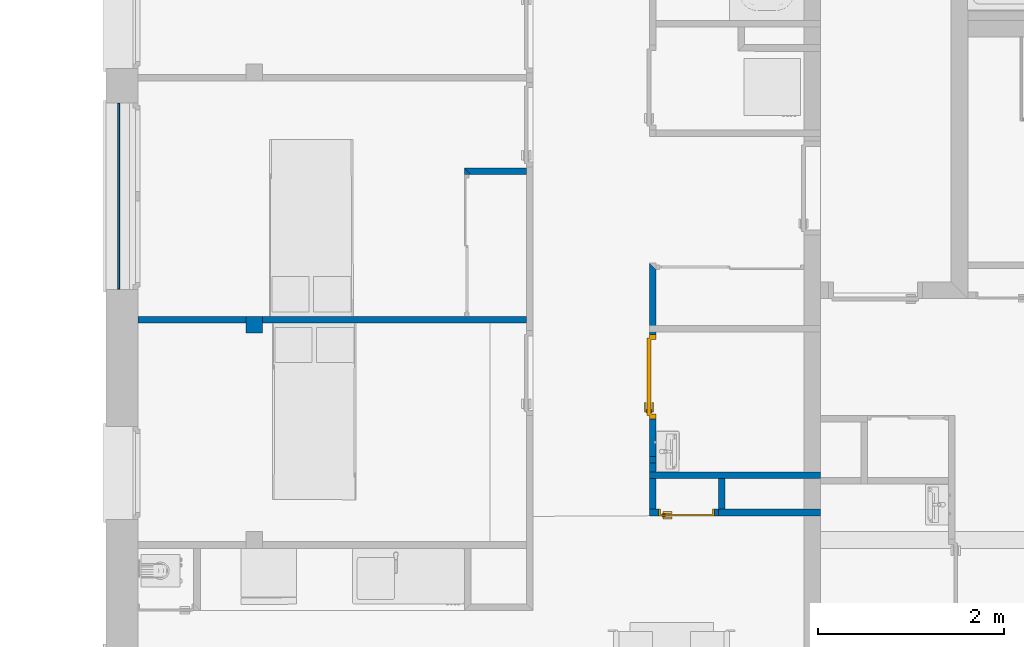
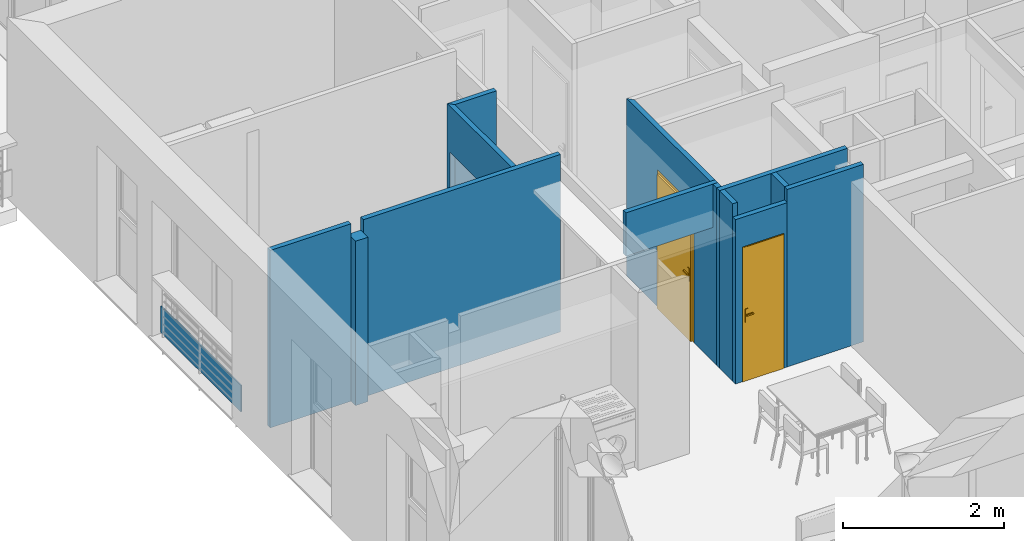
# One storey, part 9 of 164: 12 walls, 2 doors, 4 openings.
"""IFC2X3 building model written with IfcOpenShell, lengths in millimetres."""

from ifc_helpers import new_model, entity, si_unit, converted_unit, derived_unit, money_unit, direction, frame, origin_with_axes, origin_2d_with_axis, place, context, subcontext, project, spatial, polyline, rectangle, outline, extrude, faceted_brep, source, transform, mapped, material, layer, layer_set, layer_usage, type_object, element, fill, save


model = new_model("IFC2X3")

# Units and contexts
model_context = context("Model", 3, precision=0.01, world=origin_with_axes(), true_north=direction((0.0, 1.0)))
body_context = subcontext(model_context, "Body", "Model", "MODEL_VIEW")
ifc_project = project(units=[si_unit("LENGTHUNIT", "METRE", prefix="MILLI"), si_unit("AREAUNIT", "SQUARE_METRE"), si_unit("VOLUMEUNIT", "CUBIC_METRE"), converted_unit("PLANEANGLEUNIT", "DEGREE", entity("IfcPlaneAngleMeasure", 0.0174532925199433), si_unit("PLANEANGLEUNIT", "RADIAN"), dimensions=[0, 0, 0, 0, 0, 0, 0]), money_unit("USD"), converted_unit("TIMEUNIT", "Year", entity("IfcTimeMeasure", 31557600.0), si_unit("TIMEUNIT", "SECOND"), dimensions=[0, 0, 1, 0, 0, 0, 0]), si_unit("MASSUNIT", "GRAM", prefix="KILO"), si_unit("THERMODYNAMICTEMPERATUREUNIT", "DEGREE_CELSIUS"), si_unit("LUMINOUSINTENSITYUNIT", "LUMEN"), si_unit("ENERGYUNIT", "JOULE", prefix="MEGA"), derived_unit("THERMALCONDUCTANCEUNIT", [(si_unit("POWERUNIT", "WATT"), 1), (si_unit("LENGTHUNIT", "METRE"), -1), (si_unit("THERMODYNAMICTEMPERATUREUNIT", "KELVIN"), -1)]), derived_unit("SPECIFICHEATCAPACITYUNIT", [(si_unit("ENERGYUNIT", "JOULE"), 1), (si_unit("MASSUNIT", "GRAM", prefix="KILO"), -1), (si_unit("THERMODYNAMICTEMPERATUREUNIT", "KELVIN"), -1)]), derived_unit("MASSDENSITYUNIT", [(si_unit("MASSUNIT", "GRAM", prefix="KILO"), 1), (si_unit("VOLUMEUNIT", "CUBIC_METRE"), -1)])], contexts=[model_context])

# Site, building, storey
site_placement = place(None, origin_with_axes())
site = spatial("IfcSite", under=ifc_project, at=site_placement, Name="Site", CompositionType="ELEMENT")
building_placement = place(site_placement, origin_with_axes())
building = spatial("IfcBuilding", under=site, at=building_placement, Name="Bâtiment", CompositionType="ELEMENT")
storey_placement = place(building_placement, frame((0.0, 0.0, 5750.0), z_axis=(0.0, 0.0, 1.0), x_axis=(1.0, 0.0, 0.0)))
storey = spatial("IfcBuildingStorey", under=building, at=storey_placement, Name="Etage1", CompositionType="ELEMENT", Elevation=5750.0)

# Wall
ifc_material_1 = material(Name="Hachure solide 268963992")
ifc_layer_1 = layer(ifc_material_1, 70.0, ventilated="UNKNOWN")
ifc_layer_set_1 = layer_set([ifc_layer_1], Name="Cloison 70 0826278243")
ifc_layer_usage_1 = layer_usage(ifc_layer_set_1, "AXIS2", "NEGATIVE", 70.0)
wall_type_1 = type_object("IfcWallType", Name="Cloison 70 0826278243 70", PredefinedType="NOTDEFINED")
wall_1_placement = place(storey_placement, frame((2221152.351167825, -648325.5587458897, 0.0), z_axis=(0.0, 0.0, 1.0), x_axis=(-1.0, 0.0, 0.0)))
element("IfcWallStandardCase", 1, at=wall_1_placement, inside=storey, type_object=wall_type_1, material=ifc_layer_usage_1, Name="Mur-149", context=body_context, shape_type="SweptSolid", body=[
    extrude(outline(polyline([(1.541729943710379e-05, 0.0), (669.9999999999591, 0.0), (600.0000075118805, 69.99999999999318), (1.571481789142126e-05, 69.99999999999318), (1.541729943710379e-05, 0.0)])), origin_with_axes(), (0.0, 0.0, 1.0), 2700.0),
])

# Wall, opening
ifc_layer_usage_2 = layer_usage(ifc_layer_set_1, "AXIS2", "NEGATIVE", 70.0)
wall_2_placement = place(storey_placement, frame((2220482.351167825, -648325.5587458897, 0.0), z_axis=(0.0, 0.0, 1.0), x_axis=(-1.073144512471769e-07, -0.9999999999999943, 0.0)))
wall_2 = element("IfcWallStandardCase", 2, at=wall_2_placement, inside=storey, type_object=wall_type_1, material=ifc_layer_usage_2, Name="Mur-149", context=body_context, shape_type="SweptSolid", body=[
    extrude(outline(polyline([(0.0, 0.0), (1595.2278793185, 0.0), (1595.227871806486, 70.00000000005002), (69.99999248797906, 70.00000000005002), (0.0, 0.0)])), origin_with_axes(), (0.0, 0.0, 1.0), 2700.0),
])
opening_1_placement = place(wall_2_placement, frame((832.6139321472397, 2.273736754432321e-10, 0.0), z_axis=(0.0, 0.0, 1.0), x_axis=(1.0, 0.0, 0.0)))
element("IfcOpeningElement", 3, at=opening_1_placement, cuts=wall_2, Name="Por-321", context=body_context, shape_type="SweptSolid", body=[
    extrude(rectangle(XDim=1525.227879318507, YDim=2000.0, at=origin_2d_with_axis()), frame((0.0, 0.0, 1000.0), z_axis=(0.0, 1.0, 0.0), x_axis=(1.0, 0.0, 0.0)), (0.0, 0.0, -1.0), 70.0),
    extrude(rectangle(XDim=1525.227879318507, YDim=2000.0, at=origin_2d_with_axis()), frame((0.0, 0.0, 1000.0), z_axis=(0.0, -1.0, 0.0), x_axis=(1.0, 0.0, 0.0)), (0.0, 0.0, -1.0), 70.0),
])

# Wall
ifc_layer_usage_3 = layer_usage(ifc_layer_set_1, "AXIS2", "NEGATIVE", 70.0)
wall_3_placement = place(storey_placement, frame((2221152.351167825, -649920.7866252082, 0.0), z_axis=(0.0, 0.0, 1.0), x_axis=(-1.0, 0.0, 0.0)))
element("IfcWallStandardCase", 4, at=wall_3_placement, inside=storey, type_object=wall_type_1, material=ifc_layer_usage_3, Name="Mur-149", context=body_context, shape_type="SweptSolid", body=[
    extrude(outline(polyline([(2.219758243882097e-05, 0.0), (2838.067937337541, 0.0), (2838.067937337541, 69.99999999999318), (2.249510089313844e-05, 69.99999999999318), (2.219758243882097e-05, 0.0)])), origin_with_axes(), (0.0, 0.0, 1.0), 2700.0),
])

# Wall, opening, door
ifc_layer_usage_4 = layer_usage(ifc_layer_set_1, "AXIS2", "NEGATIVE", 70.0)
wall_4_placement = place(storey_placement, frame((2222472.351121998, -649348.3834312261, 0.0), z_axis=(0.0, 0.0, 1.0), x_axis=(-0.0001713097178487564, -0.9999999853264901, 0.0)))
wall_4 = element("IfcWallStandardCase", 5, at=wall_4_placement, inside=storey, type_object=wall_type_1, material=ifc_layer_usage_4, Name="Mur-149", context=body_context, shape_type="SweptSolid", body=[
    extrude(outline(polyline([(0.0, 0.0), (2645.000038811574, -1.13686837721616e-10), (2644.98804713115, 69.99999999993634), (69.98800934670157, 69.99999999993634), (0.0, 0.0)])), origin_with_axes(), (0.0, 0.0, 1.0), 2700.0),
])
opening_2_placement = place(wall_4_placement, frame((1220.399752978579, -1.13686837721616e-10, 0.0), z_axis=(0.0, 0.0, 1.0), x_axis=(1.0, 0.0, 0.0)))
opening_2 = element("IfcOpeningElement", 6, at=opening_2_placement, cuts=wall_4, Name="Por-283", context=body_context, shape_type="SweptSolid", body=[
    extrude(rectangle(XDim=910.0, YDim=2080.0, at=origin_2d_with_axis()), frame((0.0, 70.00000000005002, 1040.0), z_axis=(0.0, -1.0, 0.0), x_axis=(-1.0, 0.0, 0.0)), (0.0, 0.0, 1.0), 140.0),
])
door_style = type_object("IfcDoorStyle", Name="Porte_1v", ConstructionType="NOTDEFINED", OperationType="NOTDEFINED", ParameterTakesPrecedence=False, Sizeable=False)
shared_shape_1 = source(origin_with_axes(), body_context, "Body", "Brep", [
    faceted_brep([(454.9999999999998, 0.0, 0.0), (414.9999999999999, 0.0, 0.0), (414.9999999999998, 0.0, 2040.0), (-414.9999999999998, 0.0, 2040.0), (-414.9999999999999, 0.0, 0.0), (-454.9999999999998, 0.0, 0.0), (-454.9999999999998, 0.0, 2080.0), (454.9999999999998, 0.0, 2080.0), (454.9999999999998, -69.99999999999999, 0.0), (399.9999999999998, -69.99999999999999, 0.0), (399.9999999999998, -15.0, 0.0), (414.9999999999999, -15.0, 0.0), (414.9999999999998, -15.0, 2040.0), (-414.9999999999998, -15.0, 2040.0), (-414.9999999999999, -15.0, 0.0), (-399.9999999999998, -15.0, 0.0), (-399.9999999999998, -69.99999999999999, 0.0), (-454.9999999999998, -69.99999999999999, 0.0), (-454.9999999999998, -69.99999999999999, 2080.0), (454.9999999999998, -69.99999999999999, 2080.0), (-399.9999999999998, -69.99999999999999, 2025.0), (399.9999999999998, -69.99999999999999, 2025.0), (399.9999999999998, -15.0, 2025.0), (-399.9999999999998, -15.0, 2025.0)], [[[0, 1, 2, 3, 4, 5, 6, 7]], [[0, 8, 9, 10, 11, 1]], [[1, 11, 12, 2]], [[2, 12, 13, 3]], [[3, 13, 14, 4]], [[5, 4, 14, 15, 16, 17]], [[18, 6, 5, 17]], [[19, 7, 6, 18]], [[8, 0, 7, 19]], [[9, 8, 19, 18, 17, 16, 20, 21]], [[10, 9, 21, 22]], [[11, 10, 22, 23, 15, 14, 13, 12]], [[23, 20, 16, 15]], [[22, 21, 20, 23]]]),
    faceted_brep([(-349.9999999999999, -15.0, 900.0), (-389.9999999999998, -15.0, 900.0), (-389.9999999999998, -15.0, 1100.0), (-349.9999999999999, -15.0, 1100.0), (-349.9999999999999, -24.99999999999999, 900.0), (-389.9999999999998, -24.99999999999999, 900.0), (-389.9999999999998, -24.99999999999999, 1100.0), (-349.9999999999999, -24.99999999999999, 1100.0)], [[[0, 1, 2, 3]], [[1, 0, 4, 5]], [[2, 1, 5, 6]], [[3, 2, 6, 7]], [[0, 3, 7, 4]], [[5, 4, 7, 6]]]),
    faceted_brep([(-279.9999999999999, -24.99999999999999, 1000.0), (-379.9999999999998, -24.99999999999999, 1000.0), (-379.9999999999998, -24.99999999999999, 1020.0), (-279.9999999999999, -24.99999999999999, 1020.0), (-279.9999999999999, -44.99999999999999, 1000.0), (-379.9999999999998, -44.99999999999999, 1000.0), (-379.9999999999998, -44.99999999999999, 1020.0), (-279.9999999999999, -44.99999999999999, 1020.0)], [[[0, 1, 2, 3]], [[1, 0, 4, 5]], [[2, 1, 5, 6]], [[3, 2, 6, 7]], [[0, 3, 7, 4]], [[5, 4, 7, 6]]]),
    faceted_brep([(-349.9999999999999, 34.99999999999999, 900.0), (-389.9999999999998, 34.99999999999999, 900.0), (-389.9999999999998, 34.99999999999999, 1100.0), (-349.9999999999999, 34.99999999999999, 1100.0), (-349.9999999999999, 24.99999999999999, 900.0), (-389.9999999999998, 24.99999999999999, 900.0), (-389.9999999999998, 24.99999999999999, 1100.0), (-349.9999999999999, 24.99999999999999, 1100.0)], [[[0, 1, 2, 3]], [[1, 0, 4, 5]], [[2, 1, 5, 6]], [[3, 2, 6, 7]], [[0, 3, 7, 4]], [[5, 4, 7, 6]]]),
    faceted_brep([(-279.9999999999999, 54.99999999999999, 1000.0), (-379.9999999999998, 54.99999999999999, 1000.0), (-379.9999999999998, 54.99999999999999, 1020.0), (-279.9999999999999, 54.99999999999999, 1020.0), (-279.9999999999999, 34.99999999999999, 1000.0), (-379.9999999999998, 34.99999999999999, 1000.0), (-379.9999999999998, 34.99999999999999, 1020.0), (-279.9999999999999, 34.99999999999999, 1020.0)], [[[0, 1, 2, 3]], [[1, 0, 4, 5]], [[2, 1, 5, 6]], [[3, 2, 6, 7]], [[0, 3, 7, 4]], [[5, 4, 7, 6]]]),
    faceted_brep([(-414.9999999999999, 24.99999999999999, 0.0), (414.9999999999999, 24.99999999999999, 0.0), (414.9999999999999, -15.0, 0.0), (-414.9999999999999, -15.0, 0.0), (-414.9999999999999, 24.99999999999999, 2040.0), (414.9999999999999, 24.99999999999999, 2040.0), (414.9999999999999, -15.0, 2040.0), (-414.9999999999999, -15.0, 2040.0)], [[[0, 1, 2, 3]], [[0, 4, 5, 1]], [[1, 5, 6, 2]], [[3, 2, 6, 7]], [[4, 0, 3, 7]], [[5, 4, 7, 6]]]),
])
door_1_placement = place(opening_2_placement, frame((414.9999999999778, -1.13686837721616e-10, 0.0), z_axis=(0.0, 0.0, 1.0), x_axis=(-1.0, 0.0, 0.0)))
door_1 = element("IfcDoor", 7, at=door_1_placement, inside=storey, type_object=door_style, Name="Por-283", OverallHeight=2040.0, OverallWidth=830.0, context=body_context, shape_type="MappedRepresentation", body=[
    mapped(shared_shape_1, transform((415.0000000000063, -1.13686837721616e-10, 0.0))),
])
fill(opening_2, door_1)

# Wall
ifc_layer_usage_5 = layer_usage(ifc_layer_set_1, "AXIS2", "NEGATIVE", 70.0)
wall_5_placement = place(storey_placement, frame((2224312.346626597, -651993.3834312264, 0.0), z_axis=(0.0, 0.0, 1.0), x_axis=(-1.0, 0.0, 0.0)))
element("IfcWallStandardCase", 8, at=wall_5_placement, inside=storey, type_object=wall_type_1, material=ifc_layer_usage_5, Name="Mur-149", context=body_context, shape_type="SweptSolid", body=[
    extrude(outline(polyline([(0.0, 0.0), (1096.672255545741, 0.0), (1096.672255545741, 69.99999999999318), (0.0, 69.99999999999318), (0.0, 0.0)])), origin_with_axes(), (0.0, 0.0, 1.0), 2700.0),
])

# Wall, opening, door
ifc_layer_usage_6 = layer_usage(ifc_layer_set_1, "AXIS2", "NEGATIVE", 70.0)
wall_6_placement = place(storey_placement, frame((2223215.674371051, -651993.3834312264, 0.0), z_axis=(0.0, 0.0, 1.0), x_axis=(-1.0, 0.0, 0.0)))
wall_6 = element("IfcWallStandardCase", 9, at=wall_6_placement, inside=storey, type_object=wall_type_1, material=ifc_layer_usage_6, Name="Mur-149", context=body_context, shape_type="SweptSolid", body=[
    extrude(outline(polyline([(0.0, 0.0), (744.0326172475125, 0.0), (744.0326172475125, 69.99999999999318), (0.0, 69.99999999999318), (0.0, 0.0)])), origin_with_axes(), (0.0, 0.0, 1.0), 2500.0),
])
opening_3_placement = place(wall_6_placement, frame((345.8196076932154, 0.0, 0.0), z_axis=(0.0, 0.0, 1.0), x_axis=(1.0, 0.0, 0.0)))
opening_3 = element("IfcOpeningElement", 10, at=opening_3_placement, cuts=wall_6, Name="Por-274", context=body_context, shape_type="SweptSolid", body=[
    extrude(rectangle(XDim=599.9999999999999, YDim=2050.0, at=origin_2d_with_axis()), frame((0.0, -69.99999999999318, 1025.0), z_axis=(0.0, -1.0, 0.0), x_axis=(-1.0, 0.0, 0.0)), (0.0, 0.0, -1.0), 140.0),
])
shared_shape_2 = source(origin_with_axes(), body_context, "Body", "Brep", [
    faceted_brep([(-300.0, 0.0, 0.0), (-300.0, 0.0, 2050.0), (300.0, 0.0, 2050.0), (300.0, 0.0, 0.0), (290.0, 0.0, 0.0), (290.0, 0.0, 2040.0), (-290.0, 0.0, 2040.0), (-290.0, 0.0, 0.0), (-300.0, -70.0, 0.0), (-300.0, -70.0, 2050.0), (300.0, -70.0, 2050.0), (300.0, -70.0, 0.0), (279.9999999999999, -70.0, 0.0), (279.9999999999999, -15.0, 0.0), (290.0, -15.0, 0.0), (290.0, -15.0, 2040.0), (-290.0, -15.0, 2040.0), (-290.0, -15.0, 0.0), (-279.9999999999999, -15.0, 0.0), (-279.9999999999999, -70.0, 0.0), (-279.9999999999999, -70.0, 2030.0), (279.9999999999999, -70.0, 2030.0), (279.9999999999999, -15.0, 2030.0), (-279.9999999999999, -15.0, 2030.0)], [[[0, 1, 2, 3, 4, 5, 6, 7]], [[8, 9, 1, 0]], [[9, 10, 2, 1]], [[10, 11, 3, 2]], [[3, 11, 12, 13, 14, 4]], [[5, 4, 14, 15]], [[6, 5, 15, 16]], [[7, 6, 16, 17]], [[0, 7, 17, 18, 19, 8]], [[19, 20, 21, 12, 11, 10, 9, 8]], [[22, 13, 12, 21]], [[17, 16, 15, 14, 13, 22, 23, 18]], [[18, 23, 20, 19]], [[23, 22, 21, 20]]]),
    faceted_brep([(224.9999999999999, -15.0, 900.0), (224.9999999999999, -15.0, 1100.0), (264.9999999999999, -15.0, 1100.0), (264.9999999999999, -15.0, 900.0), (224.9999999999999, -25.0, 900.0), (224.9999999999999, -25.0, 1100.0), (264.9999999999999, -25.0, 1100.0), (264.9999999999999, -25.0, 900.0)], [[[0, 1, 2, 3]], [[0, 4, 5, 1]], [[1, 5, 6, 2]], [[2, 6, 7, 3]], [[3, 7, 4, 0]], [[7, 6, 5, 4]]]),
    faceted_brep([(154.9999999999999, -25.0, 1000.0), (154.9999999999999, -25.0, 1020.0), (254.9999999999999, -25.0, 1020.0), (254.9999999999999, -25.0, 1000.0), (154.9999999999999, -45.0, 1000.0), (154.9999999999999, -45.0, 1020.0), (254.9999999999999, -45.0, 1020.0), (254.9999999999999, -45.0, 1000.0)], [[[0, 1, 2, 3]], [[0, 4, 5, 1]], [[1, 5, 6, 2]], [[2, 6, 7, 3]], [[3, 7, 4, 0]], [[7, 6, 5, 4]]]),
    faceted_brep([(224.9999999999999, 15.0, 900.0), (224.9999999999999, 15.0, 1100.0), (264.9999999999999, 15.0, 1100.0), (264.9999999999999, 15.0, 900.0), (224.9999999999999, 5.000000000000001, 900.0), (224.9999999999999, 5.000000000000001, 1100.0), (264.9999999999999, 5.000000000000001, 1100.0), (264.9999999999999, 5.000000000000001, 900.0)], [[[0, 1, 2, 3]], [[0, 4, 5, 1]], [[1, 5, 6, 2]], [[2, 6, 7, 3]], [[3, 7, 4, 0]], [[7, 6, 5, 4]]]),
    faceted_brep([(154.9999999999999, 35.0, 1000.0), (154.9999999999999, 35.0, 1020.0), (254.9999999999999, 35.0, 1020.0), (254.9999999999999, 35.0, 1000.0), (154.9999999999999, 15.0, 1000.0), (154.9999999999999, 15.0, 1020.0), (254.9999999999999, 15.0, 1020.0), (254.9999999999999, 15.0, 1000.0)], [[[0, 1, 2, 3]], [[0, 4, 5, 1]], [[1, 5, 6, 2]], [[2, 6, 7, 3]], [[3, 7, 4, 0]], [[7, 6, 5, 4]]]),
    faceted_brep([(290.0, 5.000000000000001, 0.0), (290.0, -15.0, 0.0), (-290.0, -15.0, 0.0), (-290.0, 5.000000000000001, 0.0), (290.0, 5.000000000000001, 2040.0), (290.0, -15.0, 2040.0), (-290.0, -15.0, 2040.0), (-290.0, 5.000000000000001, 2040.0)], [[[0, 1, 2, 3]], [[4, 5, 1, 0]], [[1, 5, 6, 2]], [[3, 2, 6, 7]], [[0, 3, 7, 4]], [[7, 6, 5, 4]]]),
])
door_2_placement = place(opening_3_placement, frame((-289.9999999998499, 0.0, 0.0), z_axis=(0.0, 0.0, 1.0), x_axis=(1.0, 0.0, 0.0)))
door_2 = element("IfcDoor", 11, at=door_2_placement, inside=storey, type_object=door_style, Name="Por-274", OverallHeight=2040.0, OverallWidth=580.0, context=body_context, shape_type="MappedRepresentation", body=[
    mapped(shared_shape_2, transform((289.9999999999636, 69.99999999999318, 0.0))),
])
fill(opening_3, door_2)

# Wall
ifc_layer_usage_7 = layer_usage(ifc_layer_set_1, "AXIS2", "NEGATIVE", 70.0)
wall_7_placement = place(storey_placement, frame((2224312.348514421, -651593.3834312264, 0.0), z_axis=(0.0, 0.0, 1.0), x_axis=(-1.0, 0.0, 0.0)))
element("IfcWallStandardCase", 12, at=wall_7_placement, inside=storey, type_object=wall_type_1, material=ifc_layer_usage_7, Name="Mur-149", context=body_context, shape_type="SweptSolid", body=[
    extrude(outline(polyline([(0.0, 0.0), (1840.611084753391, 0.0), (1840.611084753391, 69.99999999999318), (0.0, 69.99999999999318), (0.0, 0.0)])), origin_with_axes(), (0.0, 0.0, 1.0), 2700.0),
])

# Wall, opening
ifc_layer_usage_8 = layer_usage(ifc_layer_set_1, "AXIS2", "NEGATIVE", 70.0)
wall_8_placement = place(storey_placement, frame((2222542.351167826, -651428.3834312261, 0.0), z_axis=(0.0, 0.0, 1.0), x_axis=(-1.0, 0.0, 0.0)))
wall_8 = element("IfcWallStandardCase", 13, at=wall_8_placement, inside=storey, type_object=wall_type_1, material=ifc_layer_usage_8, Name="Mur-149", context=body_context, shape_type="SweptSolid", body=[
    extrude(outline(polyline([(0.0, 0.0), (1320.000028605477, 0.0), (1320.000028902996, 69.99999999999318), (0.0, 69.99999999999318), (0.0, 0.0)])), origin_with_axes(), (0.0, 0.0, 1.0), 2700.0),
])
opening_4_placement = place(wall_8_placement, frame((694.9999997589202, 0.0, 0.0), z_axis=(0.0, 0.0, 1.0), x_axis=(1.0, 0.0, 0.0)))
element("IfcOpeningElement", 14, at=opening_4_placement, cuts=wall_8, Name="Por-282", context=body_context, shape_type="SweptSolid", body=[
    extrude(rectangle(XDim=1249.999999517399, YDim=2040.0, at=origin_2d_with_axis()), frame((0.0, 69.99999999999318, 1020.0), z_axis=(0.0, -1.0, 0.0), x_axis=(1.0, 0.0, 0.0)), (0.0, 0.0, -1.0), 70.0),
    extrude(rectangle(XDim=1249.999999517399, YDim=2040.0, at=origin_2d_with_axis()), frame((0.0, 69.99999999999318, 1020.0), z_axis=(0.0, 1.0, 0.0), x_axis=(1.0, 0.0, 0.0)), (0.0, 0.0, -1.0), 70.0),
])

# Walls
ifc_layer_usage_9 = layer_usage(ifc_layer_set_1, "AXIS2", "POSITIVE", -70.0)
wall_9_placement = place(storey_placement, frame((2223215.674371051, -651993.3834312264, 0.0), z_axis=(0.0, 0.0, 1.0), x_axis=(0.0, 1.0, 0.0)))
element("IfcWallStandardCase", 15, at=wall_9_placement, inside=storey, type_object=wall_type_1, material=ifc_layer_usage_9, Name="Mur-149", context=body_context, shape_type="SweptSolid", body=[
    extrude(outline(polyline([(0.0, -70.00000000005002), (330.0000000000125, -70.00000000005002), (330.0000000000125, 0.0), (0.0, 0.0), (0.0, -70.00000000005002)])), origin_with_axes(), (0.0, 0.0, 1.0), 2700.0),
])
ifc_layer_usage_10 = layer_usage(ifc_layer_set_1, "AXIS2", "NEGATIVE", 70.0)
wall_10_placement = place(storey_placement, frame((2218138.219228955, -649920.7866252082, 0.0), z_axis=(0.0, 0.0, 1.0), x_axis=(-1.0, 0.0, 0.0)))
element("IfcWallStandardCase", 16, at=wall_10_placement, inside=storey, type_object=wall_type_1, material=ifc_layer_usage_10, Name="Mur-149", context=body_context, shape_type="SweptSolid", body=[
    extrude(outline(polyline([(0.0, 0.0), (1163.985884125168, 0.0), (1163.985884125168, 69.99999999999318), (0.0, 69.99999999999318), (0.0, 0.0)])), origin_with_axes(), (0.0, 0.0, 1.0), 2700.0),
])
ifc_material_2 = material(Name="MANQUANT")
ifc_layer_2 = layer(ifc_material_2, 20.0, ventilated="UNKNOWN")
ifc_layer_set_2 = layer_set([ifc_layer_2], Name="MANQUANT 20")
ifc_layer_usage_11 = layer_usage(ifc_layer_set_2, "AXIS2", "POSITIVE", -20.0)
wall_type_2 = type_object("IfcWallType", Name="MANQUANT 20", PredefinedType="NOTDEFINED")
wall_11_placement = place(storey_placement, frame((2216759.442105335, -649629.7674292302, 99.99999999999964), z_axis=(0.0, 0.0, 1.0), x_axis=(0.0, 1.0, 0.0)))
element("IfcWallStandardCase", 17, at=wall_11_placement, inside=storey, type_object=wall_type_2, material=ifc_layer_usage_11, Name="Mur-150", context=body_context, shape_type="SweptSolid", body=[
    extrude(outline(polyline([(0.0, -19.99999999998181), (1999.999999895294, -19.99999999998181), (1999.999999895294, 0.0), (0.0, 0.0), (0.0, -19.99999999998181)])), origin_with_axes(), (0.0, 0.0, 1.0), 400.0),
])
ifc_material_3 = material(Name="Parpaing 312445824")
ifc_layer_3 = layer(ifc_material_3, 180.0, ventilated="UNKNOWN")
ifc_layer_set_3 = layer_set([ifc_layer_3], Name="Beton  18 0836643197")
ifc_layer_usage_12 = layer_usage(ifc_layer_set_3, "AXIS2", "NEGATIVE", 0.0)
wall_type_3 = type_object("IfcWallType", Name="Beton  18 0836643197 180", PredefinedType="NOTDEFINED")
wall_12_placement = place(storey_placement, frame((2218314.283230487, -650100.7866252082, 0.0), z_axis=(0.0, 0.0, 1.0), x_axis=(-1.0, 0.0, 0.0)))
element("IfcWallStandardCase", 18, at=wall_12_placement, inside=storey, type_object=wall_type_3, material=ifc_layer_usage_12, Name="Mur-143", context=body_context, shape_type="SweptSolid", body=[
    extrude(outline(polyline([(0.0, -180.0000000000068), (176.0640015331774, -180.0000000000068), (176.0640015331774, 0.0), (0.0, 0.0), (0.0, -180.0000000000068)])), origin_with_axes(), (0.0, 0.0, 1.0), 2500.0),
])

save(model, "model.ifc")
